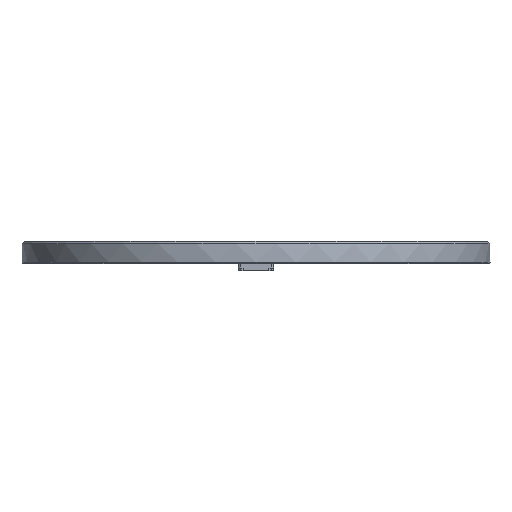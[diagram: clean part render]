
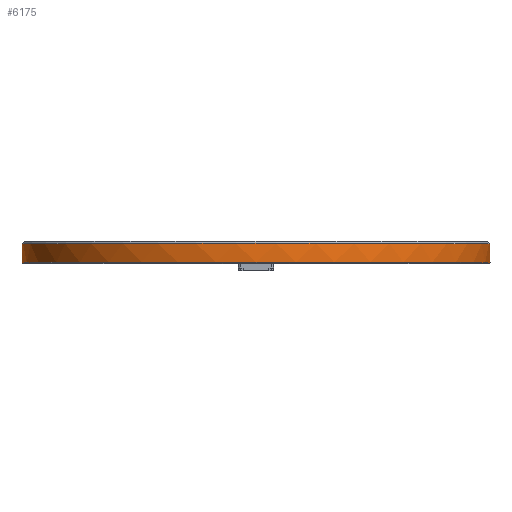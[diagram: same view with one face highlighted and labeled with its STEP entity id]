
A CAD part, top view. The second image highlights one B-rep face of the part: STEP entity #6175.
In plain terms, the highlighted cylindrical face has radius 217.112 mm (diameter 434.225 mm), a partial arc.
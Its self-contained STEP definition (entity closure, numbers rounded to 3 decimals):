
#8 = DIRECTION ( 'NONE',  ( 0., 1., 0. ) ) ;
#113 = DIRECTION ( 'NONE',  ( 0., 0., 1. ) ) ;
#190 = LINE ( 'NONE', #5872, #4188 ) ;
#310 = CARTESIAN_POINT ( 'NONE',  ( 47.938, 7.108, -29.468 ) ) ;
#349 = VERTEX_POINT ( 'NONE', #2319 ) ;
#424 = DIRECTION ( 'NONE',  ( 0., 1., 0. ) ) ;
#617 = VERTEX_POINT ( 'NONE', #4651 ) ;
#655 = DIRECTION ( 'NONE',  ( 0., 0., 1. ) ) ;
#670 = CARTESIAN_POINT ( 'NONE',  ( 47.938, 0.608, -29.468 ) ) ;
#704 = ORIENTED_EDGE ( 'NONE', *, *, #7339, .T. ) ;
#745 = CARTESIAN_POINT ( 'NONE',  ( 47.938, 7.108, -29.468 ) ) ;
#1310 = DIRECTION ( 'NONE',  ( 0., -1., 0. ) ) ;
#1330 = LINE ( 'NONE', #4135, #2071 ) ;
#1334 = ORIENTED_EDGE ( 'NONE', *, *, #2317, .T. ) ;
#1812 = AXIS2_PLACEMENT_3D ( 'NONE', #670, #6936, #113 ) ;
#1889 = DIRECTION ( 'NONE',  ( 0., 1., 0. ) ) ;
#1910 = EDGE_LOOP ( 'NONE', ( #4060, #2511, #6886, #4368, #4291, #704, #1334, #3919 ) ) ;
#1976 = LINE ( 'NONE', #4241, #2122 ) ;
#2011 = FACE_OUTER_BOUND ( 'NONE', #1910, .T. ) ;
#2071 = VECTOR ( 'NONE', #6452, 1000. ) ;
#2122 = VECTOR ( 'NONE', #5996, 1000. ) ;
#2317 = EDGE_CURVE ( 'NONE', #7149, #349, #1976, .T. ) ;
#2319 = CARTESIAN_POINT ( 'NONE',  ( 23.813, 7.108, -245.236 ) ) ;
#2353 = VECTOR ( 'NONE', #424, 1000. ) ;
#2488 = AXIS2_PLACEMENT_3D ( 'NONE', #4580, #8, #7340 ) ;
#2511 = ORIENTED_EDGE ( 'NONE', *, *, #5939, .T. ) ;
#2628 = VERTEX_POINT ( 'NONE', #5986 ) ;
#2931 = EDGE_CURVE ( 'NONE', #4817, #6946, #190, .T. ) ;
#3019 = CARTESIAN_POINT ( 'NONE',  ( 47.938, 18.108, -29.468 ) ) ;
#3021 = CYLINDRICAL_SURFACE ( 'NONE', #4370, 217.112 ) ;
#3074 = CIRCLE ( 'NONE', #3664, 217.112 ) ;
#3318 = LINE ( 'NONE', #3870, #2353 ) ;
#3399 = CARTESIAN_POINT ( 'NONE',  ( 31.688, 7.108, -245.972 ) ) ;
#3664 = AXIS2_PLACEMENT_3D ( 'NONE', #745, #1889, #7015 ) ;
#3820 = CARTESIAN_POINT ( 'NONE',  ( 64.188, 0.608, -245.972 ) ) ;
#3870 = CARTESIAN_POINT ( 'NONE',  ( 31.688, 7.108, -245.972 ) ) ;
#3898 = CARTESIAN_POINT ( 'NONE',  ( 64.188, 7.108, -245.972 ) ) ;
#3919 = ORIENTED_EDGE ( 'NONE', *, *, #7064, .F. ) ;
#3960 = CARTESIAN_POINT ( 'NONE',  ( 72.062, 7.108, -245.236 ) ) ;
#4060 = ORIENTED_EDGE ( 'NONE', *, *, #6644, .F. ) ;
#4135 = CARTESIAN_POINT ( 'NONE',  ( 72.062, 7.108, -245.236 ) ) ;
#4188 = VECTOR ( 'NONE', #1310, 1000. ) ;
#4241 = CARTESIAN_POINT ( 'NONE',  ( 23.813, 7.108, -245.236 ) ) ;
#4258 = CIRCLE ( 'NONE', #5483, 217.112 ) ;
#4291 = ORIENTED_EDGE ( 'NONE', *, *, #5212, .T. ) ;
#4368 = ORIENTED_EDGE ( 'NONE', *, *, #7177, .F. ) ;
#4370 = AXIS2_PLACEMENT_3D ( 'NONE', #310, #7135, #5891 ) ;
#4580 = CARTESIAN_POINT ( 'NONE',  ( 47.938, 7.108, -29.468 ) ) ;
#4651 = CARTESIAN_POINT ( 'NONE',  ( 72.062, 18.108, -245.236 ) ) ;
#4817 = VERTEX_POINT ( 'NONE', #3898 ) ;
#4857 = CARTESIAN_POINT ( 'NONE',  ( 23.813, 18.108, -245.236 ) ) ;
#5091 = VERTEX_POINT ( 'NONE', #3960 ) ;
#5212 = EDGE_CURVE ( 'NONE', #5091, #617, #1330, .T. ) ;
#5269 = CIRCLE ( 'NONE', #1812, 217.112 ) ;
#5309 = DIRECTION ( 'NONE',  ( 0., -1., 0. ) ) ;
#5483 = AXIS2_PLACEMENT_3D ( 'NONE', #3019, #5309, #655 ) ;
#5576 = VERTEX_POINT ( 'NONE', #3399 ) ;
#5872 = CARTESIAN_POINT ( 'NONE',  ( 64.188, 7.108, -245.972 ) ) ;
#5891 = DIRECTION ( 'NONE',  ( 0., 0., 1. ) ) ;
#5939 = EDGE_CURVE ( 'NONE', #2628, #6946, #5269, .T. ) ;
#5986 = CARTESIAN_POINT ( 'NONE',  ( 31.688, 0.608, -245.972 ) ) ;
#5996 = DIRECTION ( 'NONE',  ( 0., -1., 0. ) ) ;
#6175 = ADVANCED_FACE ( 'NONE', ( #2011 ), #3021, .T. ) ;
#6452 = DIRECTION ( 'NONE',  ( 0., 1., 0. ) ) ;
#6644 = EDGE_CURVE ( 'NONE', #2628, #5576, #3318, .T. ) ;
#6886 = ORIENTED_EDGE ( 'NONE', *, *, #2931, .F. ) ;
#6905 = CIRCLE ( 'NONE', #2488, 217.112 ) ;
#6936 = DIRECTION ( 'NONE',  ( 0., 1., 0. ) ) ;
#6946 = VERTEX_POINT ( 'NONE', #3820 ) ;
#7015 = DIRECTION ( 'NONE',  ( 0., 0., 1. ) ) ;
#7064 = EDGE_CURVE ( 'NONE', #5576, #349, #6905, .T. ) ;
#7135 = DIRECTION ( 'NONE',  ( 0., 1., 0. ) ) ;
#7149 = VERTEX_POINT ( 'NONE', #4857 ) ;
#7177 = EDGE_CURVE ( 'NONE', #5091, #4817, #3074, .T. ) ;
#7339 = EDGE_CURVE ( 'NONE', #617, #7149, #4258, .T. ) ;
#7340 = DIRECTION ( 'NONE',  ( 0., 0., 1. ) ) ;
